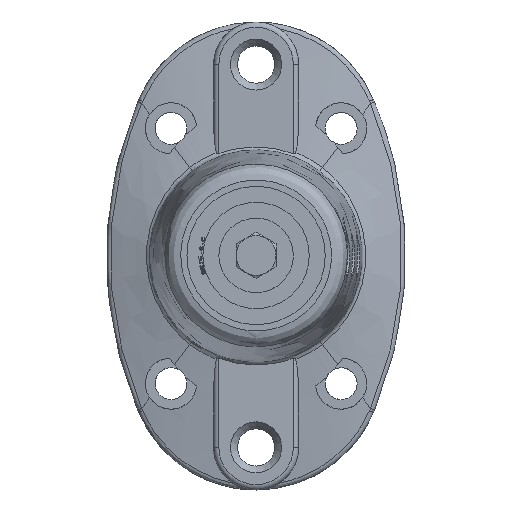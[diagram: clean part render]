
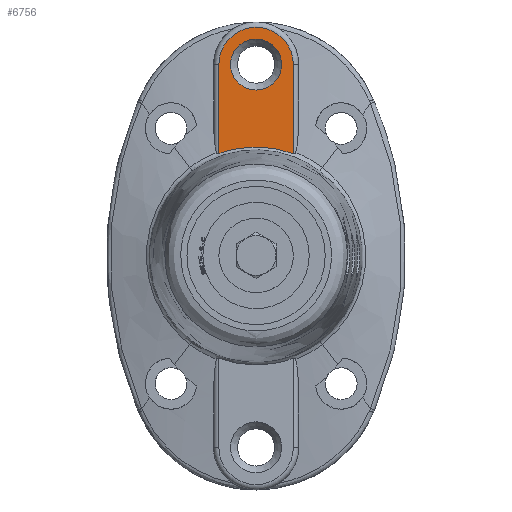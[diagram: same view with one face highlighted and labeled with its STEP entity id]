
A CAD part, top view. The second image highlights one B-rep face of the part: STEP entity #6756.
In plain terms, the highlighted planar face has unit normal (0, 0, 1).
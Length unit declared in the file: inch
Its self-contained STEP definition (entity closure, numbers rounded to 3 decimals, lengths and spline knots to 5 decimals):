
#232=FACE_BOUND($,#983,.T.);
#359=PLANE($,#7195);
#590=FACE_OUTER_BOUND($,#982,.T.);
#982=EDGE_LOOP($,(#4696,#4697,#4698,#4699));
#983=EDGE_LOOP($,(#4700));
#1501=CIRCLE($,#7193,0.875);
#1502=CIRCLE($,#7196,0.6);
#1705=LINE($,#9434,#2249);
#1708=LINE($,#9466,#2252);
#2249=VECTOR($,#7751,2.09514);
#2252=VECTOR($,#7766,2.09511);
#2797=B_SPLINE_CURVE_WITH_KNOTS($,3,(#9496,#9497,#9498,#9499,#9500,#9501,
#9502,#9503),.UNSPECIFIED.,.F.,.F.,(4,2,2,4),(-4.94419,-3.92379,
-2.49854,-0.39717),.UNSPECIFIED.);
#3013=VERTEX_POINT($,#9413);
#3015=VERTEX_POINT($,#9433);
#3018=VERTEX_POINT($,#9448);
#3022=VERTEX_POINT($,#9465);
#3023=VERTEX_POINT($,#9504);
#3688=EDGE_CURVE($,#3013,#3015,#1705,.T.);
#3694=EDGE_CURVE($,#3015,#3018,#1501,.T.);
#3697=EDGE_CURVE($,#3018,#3022,#1708,.T.);
#3699=EDGE_CURVE($,#3022,#3013,#2797,.T.);
#3700=EDGE_CURVE($,#3023,#3023,#1502,.T.);
#4696=ORIENTED_EDGE($,*,*,#3697,.F.);
#4697=ORIENTED_EDGE($,*,*,#3694,.F.);
#4698=ORIENTED_EDGE($,*,*,#3688,.F.);
#4699=ORIENTED_EDGE($,*,*,#3699,.F.);
#4700=ORIENTED_EDGE($,*,*,#3700,.T.);
#6756=ADVANCED_FACE($,(#590,#232),#359,.T.);
#7193=AXIS2_PLACEMENT_3D($,#9452,#7761,#7762);
#7195=AXIS2_PLACEMENT_3D($,#9495,#7767,#7768);
#7196=AXIS2_PLACEMENT_3D($,#9505,#7769,#7770);
#7751=DIRECTION($,(1.,0.,0.));
#7761=DIRECTION('center_axis',(0.,0.,-1.));
#7762=DIRECTION('ref_axis',(1.,0.,0.));
#7766=DIRECTION($,(-1.,0.,0.));
#7767=DIRECTION('center_axis',(0.,0.,1.));
#7768=DIRECTION('ref_axis',(1.,0.,0.));
#7769=DIRECTION('center_axis',(0.,0.,-1.));
#7770=DIRECTION('ref_axis',(1.,0.,0.));
#9413=CARTESIAN_POINT('',(7.90363,4.38185,0.5));
#9433=CARTESIAN_POINT('',(9.99877,4.38185,0.5));
#9434=CARTESIAN_POINT($,(8.5116,4.38185,0.5));
#9448=CARTESIAN_POINT('',(9.99877,2.63185,0.5));
#9452=CARTESIAN_POINT('Origin',(9.99877,3.50685,0.5));
#9465=CARTESIAN_POINT('',(7.90367,2.63185,0.5));
#9466=CARTESIAN_POINT($,(9.61595,2.63185,0.5));
#9495=CARTESIAN_POINT('Origin',(9.23313,3.50685,0.5));
#9496=CARTESIAN_POINT('Ctrl Pts',(7.90367,2.63185,0.5));
#9497=CARTESIAN_POINT('Ctrl Pts',(7.95011,2.75733,0.5));
#9498=CARTESIAN_POINT('Ctrl Pts',(7.98648,2.88643,0.5));
#9499=CARTESIAN_POINT('Ctrl Pts',(8.04868,3.20141,0.5));
#9500=CARTESIAN_POINT('Ctrl Pts',(8.06439,3.38849,0.5));
#9501=CARTESIAN_POINT('Ctrl Pts',(8.05179,3.8513,0.5));
#9502=CARTESIAN_POINT('Ctrl Pts',(7.99914,4.12382,0.5));
#9503=CARTESIAN_POINT('Ctrl Pts',(7.90363,4.38185,0.5));
#9504=CARTESIAN_POINT('',(10.59877,3.50685,0.5));
#9505=CARTESIAN_POINT('Origin',(9.99877,3.50685,0.5));
